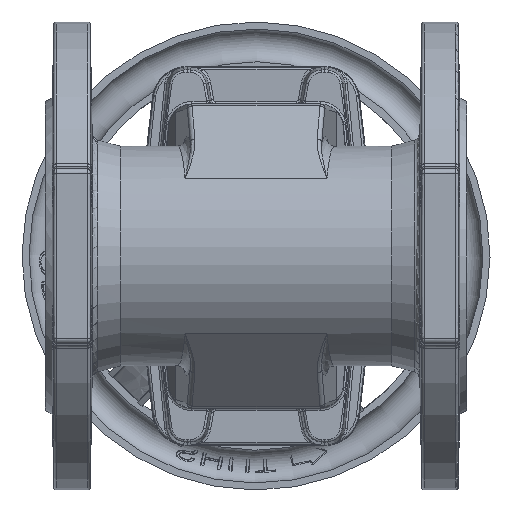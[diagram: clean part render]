
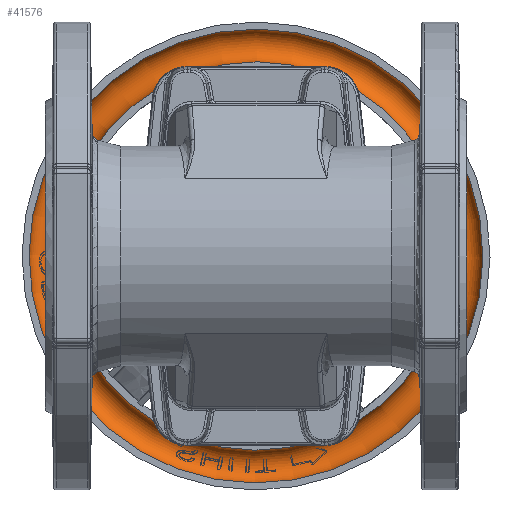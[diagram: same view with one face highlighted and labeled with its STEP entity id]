
A CAD part, front view. The second image highlights one B-rep face of the part: STEP entity #41576.
In plain terms, the highlighted toroidal (fillet/blend) face has major radius 90 mm and minor radius 7 mm.
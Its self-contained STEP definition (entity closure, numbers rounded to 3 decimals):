
#12297 = DIRECTION ( 'NONE',  ( 0.168, 0., -0.986 ) ) ;
#12299 = DIRECTION ( 'NONE',  ( 0., -1., 0. ) ) ;
#12301 = CIRCLE ( 'NONE', #12307, 97. ) ;
#12307 = AXIS2_PLACEMENT_3D ( 'NONE', #12331, #12299, #12297 ) ;
#12331 = CARTESIAN_POINT ( 'NONE',  ( 0., 319., 0. ) ) ;
#12732 = DIRECTION ( 'NONE',  ( 0.168, 0., -0.986 ) ) ;
#12782 = FACE_OUTER_BOUND ( 'NONE', #41522, .T. ) ;
#12783 = FACE_OUTER_BOUND ( 'NONE', #41572, .T. ) ;
#12785 = DIRECTION ( 'NONE',  ( 0., -1., 0. ) ) ;
#12787 = TOROIDAL_SURFACE ( 'NONE', #12796, 90., 7. ) ;
#12791 = CARTESIAN_POINT ( 'NONE',  ( 0., 319., 0. ) ) ;
#12796 = AXIS2_PLACEMENT_3D ( 'NONE', #12791, #12785, #12816 ) ;
#12816 = DIRECTION ( 'NONE',  ( 0.168, 0., -0.986 ) ) ;
#41303 = CARTESIAN_POINT ( 'NONE',  ( 13.956, 319., -81.818 ) ) ;
#41305 = CARTESIAN_POINT ( 'NONE',  ( 16.31, 319., -95.619 ) ) ;
#41306 = VERTEX_POINT ( 'NONE', #41303 ) ;
#41308 = VERTEX_POINT ( 'NONE', #41305 ) ;
#41522 = EDGE_LOOP ( 'NONE', ( #41578 ) ) ;
#41536 = EDGE_CURVE ( 'NONE', #41308, #41308, #12301, .T. ) ;
#41553 = ORIENTED_EDGE ( 'NONE', *, *, #41566, .F. ) ;
#41566 = EDGE_CURVE ( 'NONE', #41306, #41306, #50128, .T. ) ;
#41572 = EDGE_LOOP ( 'NONE', ( #41553 ) ) ;
#41576 = ADVANCED_FACE ( 'NONE', ( #12783, #12782 ), #12787, .F. ) ;
#41578 = ORIENTED_EDGE ( 'NONE', *, *, #41536, .T. ) ;
#50121 = DIRECTION ( 'NONE',  ( 0., -1., 0. ) ) ;
#50122 = CARTESIAN_POINT ( 'NONE',  ( 0., 319., 0. ) ) ;
#50127 = AXIS2_PLACEMENT_3D ( 'NONE', #50122, #50121, #12732 ) ;
#50128 = CIRCLE ( 'NONE', #50127, 83. ) ;
